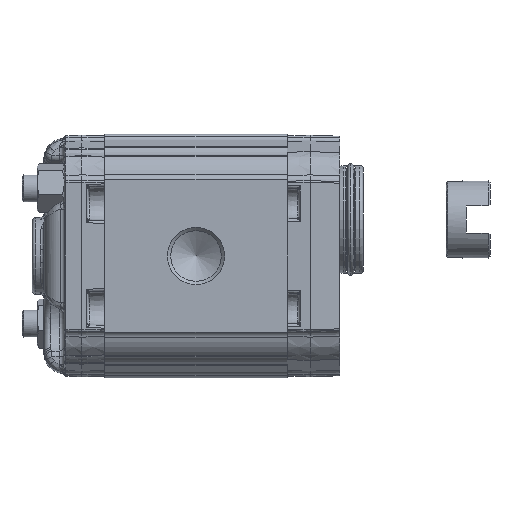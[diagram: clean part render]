
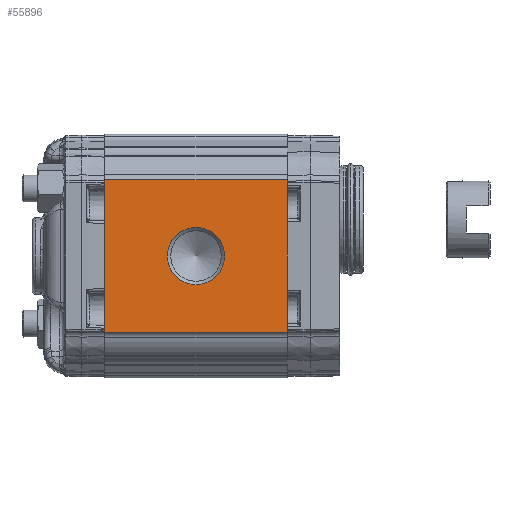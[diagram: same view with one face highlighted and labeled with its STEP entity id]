
A CAD part, left-side view. The second image highlights one B-rep face of the part: STEP entity #55896.
In plain terms, the highlighted planar face has unit normal (-1, 0, 0).
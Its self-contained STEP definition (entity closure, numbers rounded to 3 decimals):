
#726=LINE('',#97862,#2654);
#736=LINE('',#97963,#2664);
#755=LINE('',#98011,#2683);
#756=LINE('',#98013,#2684);
#2654=VECTOR('',#66198,1000.);
#2664=VECTOR('',#66290,1000.);
#2683=VECTOR('',#66345,1000.);
#2684=VECTOR('',#66348,1000.);
#12148=ORIENTED_EDGE('',*,*,#21598,.F.);
#12149=ORIENTED_EDGE('',*,*,#21696,.T.);
#12150=ORIENTED_EDGE('',*,*,#21668,.T.);
#12151=ORIENTED_EDGE('',*,*,#21697,.T.);
#12152=ORIENTED_EDGE('',*,*,#21618,.F.);
#21598=EDGE_CURVE('',#26633,#26633,#29759,.F.);
#21618=EDGE_CURVE('',#26654,#26655,#726,.T.);
#21668=EDGE_CURVE('',#26705,#26704,#736,.T.);
#21696=EDGE_CURVE('',#26654,#26705,#755,.T.);
#21697=EDGE_CURVE('',#26704,#26655,#756,.F.);
#26633=VERTEX_POINT('',#97818);
#26654=VERTEX_POINT('',#97861);
#26655=VERTEX_POINT('',#97863);
#26704=VERTEX_POINT('',#97962);
#26705=VERTEX_POINT('',#97964);
#29759=CIRCLE('',#59254,8.475);
#32124=EDGE_LOOP('',(#12148));
#32125=EDGE_LOOP('',(#12149,#12150,#12151,#12152));
#34911=FACE_BOUND('',#32124,.T.);
#34912=FACE_BOUND('',#32125,.T.);
#36818=PLANE('',#59350);
#55896=ADVANCED_FACE('',(#34911,#34912),#36818,.T.);
#59254=AXIS2_PLACEMENT_3D('',#97817,#66155,#66156);
#59350=AXIS2_PLACEMENT_3D('',#98040,#66391,#66392);
#66155=DIRECTION('',(1.,0.,0.));
#66156=DIRECTION('',(0.,0.,-1.));
#66198=DIRECTION('',(0.,0.,1.));
#66290=DIRECTION('',(0.,0.,1.));
#66345=DIRECTION('',(0.,-1.,0.));
#66348=DIRECTION('',(0.,-1.,0.));
#66391=DIRECTION('',(-1.,0.,0.));
#66392=DIRECTION('',(0.,0.,1.));
#97817=CARTESIAN_POINT('',(-33.,27.,0.));
#97818=CARTESIAN_POINT('',(-33.,27.,-8.475));
#97861=CARTESIAN_POINT('',(-33.,54.,-22.5));
#97862=CARTESIAN_POINT('',(-33.,54.,-21.711));
#97863=CARTESIAN_POINT('',(-33.,54.,22.5));
#97962=CARTESIAN_POINT('',(-33.,0.,22.5));
#97963=CARTESIAN_POINT('',(-33.,0.,-21.711));
#97964=CARTESIAN_POINT('',(-33.,0.,-22.5));
#98011=CARTESIAN_POINT('',(-33.,54.,-22.5));
#98013=CARTESIAN_POINT('',(-33.,54.,22.5));
#98040=CARTESIAN_POINT('',(-33.,129.534,48.138));
